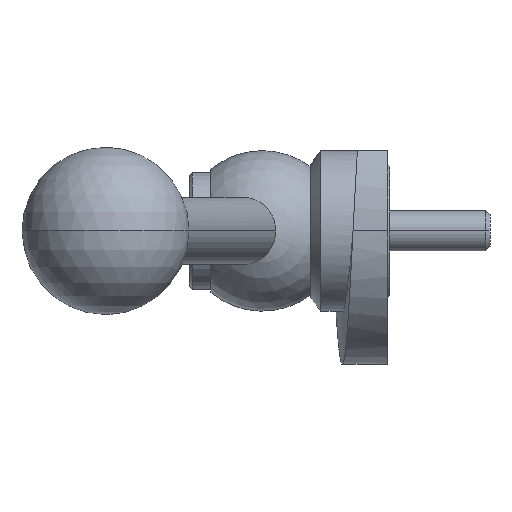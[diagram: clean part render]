
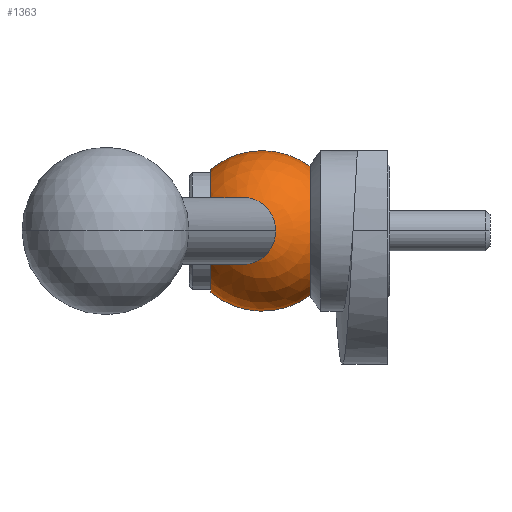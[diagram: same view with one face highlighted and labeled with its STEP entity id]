
A CAD part, left-side view. The second image highlights one B-rep face of the part: STEP entity #1363.
In plain terms, the highlighted spherical face has radius 12 mm.
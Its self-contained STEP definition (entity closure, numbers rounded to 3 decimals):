
#5 = CARTESIAN_POINT ( 'NONE',  ( -9.243, 16.403, 0. ) ) ;
#16 = VERTEX_POINT ( 'NONE', #1459 ) ;
#18 = CARTESIAN_POINT ( 'NONE',  ( 0., 1.5, 9.562 ) ) ;
#36 = ORIENTED_EDGE ( 'NONE', *, *, #1046, .T. ) ;
#50 = ORIENTED_EDGE ( 'NONE', *, *, #453, .T. ) ;
#71 = ORIENTED_EDGE ( 'NONE', *, *, #954, .T. ) ;
#100 = AXIS2_PLACEMENT_3D ( 'NONE', #196, #840, #525 ) ;
#133 = EDGE_LOOP ( 'NONE', ( #36, #448 ) ) ;
#157 = EDGE_CURVE ( 'NONE', #345, #317, #200, .T. ) ;
#196 = CARTESIAN_POINT ( 'NONE',  ( 0., 16.5, 0. ) ) ;
#200 = CIRCLE ( 'NONE', #1861, 5. ) ;
#204 = EDGE_LOOP ( 'NONE', ( #71, #50, #1562, #489 ) ) ;
#206 = SPHERICAL_SURFACE ( 'NONE', #561, 12. ) ;
#236 = CARTESIAN_POINT ( 'NONE',  ( -10.537, 11.573, 0. ) ) ;
#244 = EDGE_CURVE ( 'NONE', #1262, #796, #1090, .T. ) ;
#260 = DIRECTION ( 'NONE',  ( -1., 0., 0. ) ) ;
#264 = CIRCLE ( 'NONE', #1675, 12. ) ;
#282 = DIRECTION ( 'NONE',  ( 0., 0., -1. ) ) ;
#293 = CIRCLE ( 'NONE', #1384, 12. ) ;
#310 = CARTESIAN_POINT ( 'NONE',  ( 0., 8.75, 0. ) ) ;
#317 = VERTEX_POINT ( 'NONE', #5 ) ;
#345 = VERTEX_POINT ( 'NONE', #662 ) ;
#361 = CIRCLE ( 'NONE', #1517, 5. ) ;
#379 = DIRECTION ( 'NONE',  ( 1., 0., 0. ) ) ;
#405 = CARTESIAN_POINT ( 'NONE',  ( -10.537, 11.573, 0. ) ) ;
#448 = ORIENTED_EDGE ( 'NONE', *, *, #157, .T. ) ;
#453 = EDGE_CURVE ( 'NONE', #1373, #796, #293, .T. ) ;
#489 = ORIENTED_EDGE ( 'NONE', *, *, #651, .F. ) ;
#522 = FACE_OUTER_BOUND ( 'NONE', #204, .T. ) ;
#525 = DIRECTION ( 'NONE',  ( 0., 0., -1. ) ) ;
#561 = AXIS2_PLACEMENT_3D ( 'NONE', #1922, #1159, #994 ) ;
#634 = DIRECTION ( 'NONE',  ( 0., 0., 1. ) ) ;
#651 = EDGE_CURVE ( 'NONE', #16, #1262, #264, .T. ) ;
#662 = CARTESIAN_POINT ( 'NONE',  ( -11.831, 6.744, 0. ) ) ;
#706 = CARTESIAN_POINT ( 'NONE',  ( 0., 16.5, -9.162 ) ) ;
#796 = VERTEX_POINT ( 'NONE', #972 ) ;
#840 = DIRECTION ( 'NONE',  ( 0., -1., 0. ) ) ;
#869 = DIRECTION ( 'NONE',  ( 0.966, -0.259, 0. ) ) ;
#896 = DIRECTION ( 'NONE',  ( 0.966, -0.259, 0. ) ) ;
#954 = EDGE_CURVE ( 'NONE', #16, #1373, #1128, .T. ) ;
#972 = CARTESIAN_POINT ( 'NONE',  ( 0., 1.5, -9.562 ) ) ;
#994 = DIRECTION ( 'NONE',  ( 0., 0., 1. ) ) ;
#1015 = CARTESIAN_POINT ( 'NONE',  ( 0., 8.75, 0. ) ) ;
#1044 = DIRECTION ( 'NONE',  ( 0.259, 0.966, 0. ) ) ;
#1046 = EDGE_CURVE ( 'NONE', #317, #345, #361, .T. ) ;
#1061 = AXIS2_PLACEMENT_3D ( 'NONE', #1234, #1701, #282 ) ;
#1090 = CIRCLE ( 'NONE', #1061, 9.562 ) ;
#1128 = CIRCLE ( 'NONE', #100, 9.162 ) ;
#1147 = FACE_BOUND ( 'NONE', #133, .T. ) ;
#1159 = DIRECTION ( 'NONE',  ( -1., 0., 0. ) ) ;
#1234 = CARTESIAN_POINT ( 'NONE',  ( 0., 1.5, 0. ) ) ;
#1262 = VERTEX_POINT ( 'NONE', #18 ) ;
#1363 = ADVANCED_FACE ( 'NONE', ( #1147, #522 ), #206, .T. ) ;
#1373 = VERTEX_POINT ( 'NONE', #706 ) ;
#1384 = AXIS2_PLACEMENT_3D ( 'NONE', #310, #260, #634 ) ;
#1459 = CARTESIAN_POINT ( 'NONE',  ( 0., 16.5, 9.162 ) ) ;
#1483 = DIRECTION ( 'NONE',  ( 0., 0., -1. ) ) ;
#1511 = DIRECTION ( 'NONE',  ( 0.259, 0.966, 0. ) ) ;
#1517 = AXIS2_PLACEMENT_3D ( 'NONE', #405, #896, #1044 ) ;
#1562 = ORIENTED_EDGE ( 'NONE', *, *, #244, .F. ) ;
#1675 = AXIS2_PLACEMENT_3D ( 'NONE', #1015, #379, #1483 ) ;
#1701 = DIRECTION ( 'NONE',  ( 0., -1., 0. ) ) ;
#1861 = AXIS2_PLACEMENT_3D ( 'NONE', #236, #869, #1511 ) ;
#1922 = CARTESIAN_POINT ( 'NONE',  ( 0., 8.75, 0. ) ) ;
